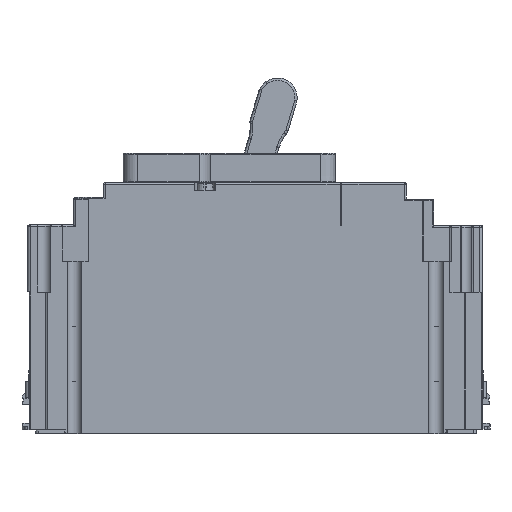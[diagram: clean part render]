
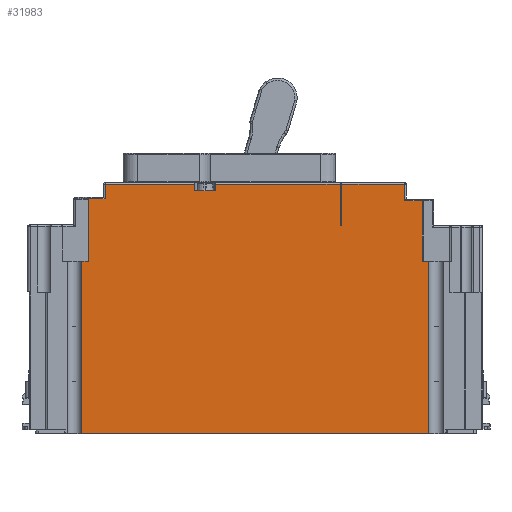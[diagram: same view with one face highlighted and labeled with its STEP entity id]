
A CAD part, left-side view. The second image highlights one B-rep face of the part: STEP entity #31983.
In plain terms, the highlighted planar face has unit normal (-1, 0, 0).
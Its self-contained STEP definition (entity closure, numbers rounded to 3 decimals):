
#1478=DIRECTION('',(0.,0.,1.));
#1479=VECTOR('',#1478,59.44);
#1480=CARTESIAN_POINT('',(0.,21.02,0.));
#1481=LINE('',#1480,#1479);
#1959=CARTESIAN_POINT('',(0.,29.47,85.9));
#1960=DIRECTION('',(1.,0.,0.));
#1961=DIRECTION('',(0.,0.,1.));
#1962=AXIS2_PLACEMENT_3D('',#1959,#1960,#1961);
#1964=DIRECTION('',(0.,0.,-1.));
#1965=VECTOR('',#1964,5.56);
#1966=CARTESIAN_POINT('',(0.,29.37,
85.9));
#1967=LINE('',#1966,#1965);
#1968=DIRECTION('',(0.,-1.,0.));
#1969=VECTOR('',#1968,2.319);
#1970=CARTESIAN_POINT('',(0.,23.339,59.44));
#1971=LINE('',#1970,#1969);
#1972=DIRECTION('',(0.,1.,0.));
#1973=VECTOR('',#1972,119.499);
#1974=CARTESIAN_POINT('',(0.,21.02,0.));
#1975=LINE('',#1974,#1973);
#1976=DIRECTION('',(0.,1.,0.));
#1977=VECTOR('',#1976,0.344);
#1978=CARTESIAN_POINT('',(0.,138.306,80.84));
#1979=LINE('',#1978,#1977);
#1980=DIRECTION('',(0.,-1.,0.));
#1981=VECTOR('',#1980,7.);
#1982=CARTESIAN_POINT('',(0.,101.62,83.8));
#1983=LINE('',#1982,#1981);
#1984=DIRECTION('',(0.,0.,1.));
#1985=VECTOR('',#1984,2.2);
#1986=CARTESIAN_POINT('',(0.,94.62,83.8));
#1987=LINE('',#1986,#1985);
#1988=DIRECTION('',(0.,0.,1.));
#1989=VECTOR('',#1988,14.12);
#1990=CARTESIAN_POINT('',(0.,51.02,71.88));
#1991=LINE('',#1990,#1989);
#1996=DIRECTION('',(0.,1.,0.));
#1997=VECTOR('',#1996,6.031);
#1998=CARTESIAN_POINT('',(0.,23.339,80.34));
#1999=LINE('',#1998,#1997);
#2000=CARTESIAN_POINT('',(0.,29.37,80.34));
#2080=DIRECTION('',(0.,0.,1.));
#2081=VECTOR('',#2080,20.9);
#2082=CARTESIAN_POINT('',(0.,23.339,59.44));
#2083=LINE('',#2082,#2081);
#2088=DIRECTION('',(0.,0.,-1.));
#2089=VECTOR('',#2088,59.44);
#2090=CARTESIAN_POINT('',(0.,140.518,59.44));
#2091=LINE('',#2090,#2089);
#2112=DIRECTION('',(0.,1.,0.));
#2113=VECTOR('',#2112,2.212);
#2114=CARTESIAN_POINT('',(0.,138.306,59.44));
#2115=LINE('',#2114,#2113);
#7895=DIRECTION('',(0.,1.,0.));
#7896=VECTOR('',#7895,0.6);
#7897=CARTESIAN_POINT('',(0.,51.02,71.88));
#7898=LINE('',#7897,#7896);
#7937=DIRECTION('',(0.,0.,1.));
#7938=VECTOR('',#7937,14.12);
#7939=CARTESIAN_POINT('',(0.,51.62,71.88));
#7940=LINE('',#7939,#7938);
#7941=DIRECTION('',(0.,1.,0.));
#7942=VECTOR('',#7941,43.);
#7943=CARTESIAN_POINT('',(0.,51.62,86.));
#7944=LINE('',#7943,#7942);
#7991=DIRECTION('',(0.,0.,1.));
#7992=VECTOR('',#7991,2.1);
#7993=CARTESIAN_POINT('',(0.,101.62,83.8));
#7994=LINE('',#7993,#7992);
#7995=DIRECTION('',(0.,1.,0.));
#7996=VECTOR('',#7995,30.9);
#7997=CARTESIAN_POINT('',(0.,101.62,85.9));
#7998=LINE('',#7997,#7996);
#8022=DIRECTION('',(0.,0.,-1.));
#8023=VECTOR('',#8022,5.);
#8024=CARTESIAN_POINT('',(0.,132.52,85.9));
#8025=LINE('',#8024,#8023);
#8090=DIRECTION('',(0.,1.,0.));
#8091=VECTOR('',#8090,6.13);
#8092=CARTESIAN_POINT('',(0.,132.52,80.9));
#8093=LINE('',#8092,#8091);
#8112=DIRECTION('',(0.,0.,-1.));
#8113=VECTOR('',#8112,0.06);
#8114=CARTESIAN_POINT('',(0.,138.65,80.9));
#8115=LINE('',#8114,#8113);
#8142=DIRECTION('',(0.,0.,-1.));
#8143=VECTOR('',#8142,21.4);
#8144=CARTESIAN_POINT('',(0.,138.306,80.84));
#8145=LINE('',#8144,#8143);
#8478=DIRECTION('',(0.,1.,0.));
#8479=VECTOR('',#8478,21.55);
#8480=CARTESIAN_POINT('',(0.,29.47,
86.));
#8481=LINE('',#8480,#8479);
#23223=CARTESIAN_POINT('',(0.,140.518,0.));
#23225=VERTEX_POINT('',#23223);
#23226=CARTESIAN_POINT('',(0.,21.02,0.));
#23227=VERTEX_POINT('',#23226);
#23586=CARTESIAN_POINT('',(0.,138.306,59.44));
#23587=VERTEX_POINT('',#23586);
#23588=CARTESIAN_POINT('',(0.,140.518,59.44));
#23589=VERTEX_POINT('',#23588);
#23648=CARTESIAN_POINT('',(0.,21.02,59.44));
#23649=VERTEX_POINT('',#23648);
#23650=CARTESIAN_POINT('',(0.,23.339,59.44));
#23651=VERTEX_POINT('',#23650);
#23897=CARTESIAN_POINT('',(0.,29.37,85.9));
#23898=VERTEX_POINT('',#23897);
#23899=VERTEX_POINT('',#2000);
#23900=CARTESIAN_POINT('',(0.,29.47,
86.));
#23901=VERTEX_POINT('',#23900);
#23904=CARTESIAN_POINT('',(0.,23.339,80.34));
#23905=VERTEX_POINT('',#23904);
#23906=CARTESIAN_POINT('',(0.,138.306,80.84));
#23907=VERTEX_POINT('',#23906);
#23908=CARTESIAN_POINT('',(0.,138.65,80.84));
#23909=VERTEX_POINT('',#23908);
#23910=CARTESIAN_POINT('',(0.,138.65,80.9));
#23911=VERTEX_POINT('',#23910);
#23912=CARTESIAN_POINT('',(0.,132.52,80.9));
#23913=VERTEX_POINT('',#23912);
#23914=CARTESIAN_POINT('',(0.,132.52,85.9));
#23915=VERTEX_POINT('',#23914);
#23916=CARTESIAN_POINT('',(0.,101.62,85.9));
#23917=VERTEX_POINT('',#23916);
#23918=CARTESIAN_POINT('',(0.,101.62,83.8));
#23919=VERTEX_POINT('',#23918);
#23920=CARTESIAN_POINT('',(0.,94.62,83.8));
#23921=VERTEX_POINT('',#23920);
#23922=CARTESIAN_POINT('',(0.,94.62,86.));
#23923=VERTEX_POINT('',#23922);
#23924=CARTESIAN_POINT('',(0.,51.62,86.));
#23925=VERTEX_POINT('',#23924);
#23926=CARTESIAN_POINT('',(0.,51.62,71.88));
#23927=VERTEX_POINT('',#23926);
#23928=CARTESIAN_POINT('',(0.,51.02,71.88));
#23929=VERTEX_POINT('',#23928);
#23930=CARTESIAN_POINT('',(0.,51.02,86.));
#23931=VERTEX_POINT('',#23930);
#31935=CARTESIAN_POINT('',(0.,140.52,0.));
#31936=DIRECTION('',(-1.,0.,0.));
#31937=DIRECTION('',(0.,-1.,0.));
#31938=AXIS2_PLACEMENT_3D('',#31935,#31936,#31937);
#31939=PLANE('',#31938);
#31940=ORIENTED_EDGE('',*,*,#31926,.T.);
#31941=ORIENTED_EDGE('',*,*,#31903,.T.);
#31943=ORIENTED_EDGE('',*,*,#31942,.F.);
#31945=ORIENTED_EDGE('',*,*,#31944,.F.);
#31946=ORIENTED_EDGE('',*,*,#31496,.T.);
#31947=ORIENTED_EDGE('',*,*,#31471,.F.);
#31948=ORIENTED_EDGE('',*,*,#29591,.T.);
#31950=ORIENTED_EDGE('',*,*,#31949,.F.);
#31952=ORIENTED_EDGE('',*,*,#31951,.F.);
#31954=ORIENTED_EDGE('',*,*,#31953,.F.);
#31956=ORIENTED_EDGE('',*,*,#31955,.T.);
#31958=ORIENTED_EDGE('',*,*,#31957,.F.);
#31960=ORIENTED_EDGE('',*,*,#31959,.F.);
#31962=ORIENTED_EDGE('',*,*,#31961,.F.);
#31964=ORIENTED_EDGE('',*,*,#31963,.F.);
#31966=ORIENTED_EDGE('',*,*,#31965,.F.);
#31968=ORIENTED_EDGE('',*,*,#31967,.T.);
#31970=ORIENTED_EDGE('',*,*,#31969,.T.);
#31972=ORIENTED_EDGE('',*,*,#31971,.F.);
#31974=ORIENTED_EDGE('',*,*,#31973,.F.);
#31976=ORIENTED_EDGE('',*,*,#31975,.F.);
#31978=ORIENTED_EDGE('',*,*,#31977,.T.);
#31980=ORIENTED_EDGE('',*,*,#31979,.F.);
#31981=EDGE_LOOP('',(#31940,#31941,#31943,#31945,#31946,#31947,#31948,#31950,
#31952,#31954,#31956,#31958,#31960,#31962,#31964,#31966,#31968,#31970,#31972,
#31974,#31976,#31978,#31980));
#31982=FACE_OUTER_BOUND('',#31981,.F.);
#31983=ADVANCED_FACE('',(#31982),#31939,.T.);
#1963=CIRCLE('',#1962,0.1);
#29591=EDGE_CURVE('',#23227,#23225,#1975,.T.);
#31471=EDGE_CURVE('',#23227,#23649,#1481,.T.);
#31496=EDGE_CURVE('',#23651,#23649,#1971,.T.);
#31903=EDGE_CURVE('',#23898,#23899,#1967,.T.);
#31926=EDGE_CURVE('',#23901,#23898,#1963,.T.);
#31942=EDGE_CURVE('',#23905,#23899,#1999,.T.);
#31944=EDGE_CURVE('',#23651,#23905,#2083,.T.);
#31949=EDGE_CURVE('',#23589,#23225,#2091,.T.);
#31951=EDGE_CURVE('',#23587,#23589,#2115,.T.);
#31953=EDGE_CURVE('',#23907,#23587,#8145,.T.);
#31955=EDGE_CURVE('',#23907,#23909,#1979,.T.);
#31957=EDGE_CURVE('',#23911,#23909,#8115,.T.);
#31959=EDGE_CURVE('',#23913,#23911,#8093,.T.);
#31961=EDGE_CURVE('',#23915,#23913,#8025,.T.);
#31963=EDGE_CURVE('',#23917,#23915,#7998,.T.);
#31965=EDGE_CURVE('',#23919,#23917,#7994,.T.);
#31967=EDGE_CURVE('',#23919,#23921,#1983,.T.);
#31969=EDGE_CURVE('',#23921,#23923,#1987,.T.);
#31971=EDGE_CURVE('',#23925,#23923,#7944,.T.);
#31973=EDGE_CURVE('',#23927,#23925,#7940,.T.);
#31975=EDGE_CURVE('',#23929,#23927,#7898,.T.);
#31977=EDGE_CURVE('',#23929,#23931,#1991,.T.);
#31979=EDGE_CURVE('',#23901,#23931,#8481,.T.);
